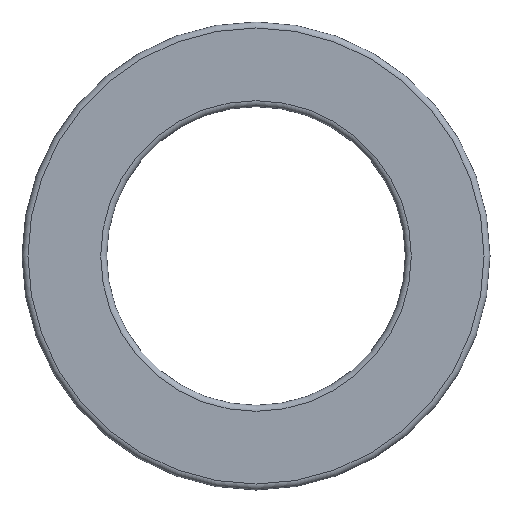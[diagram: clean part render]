
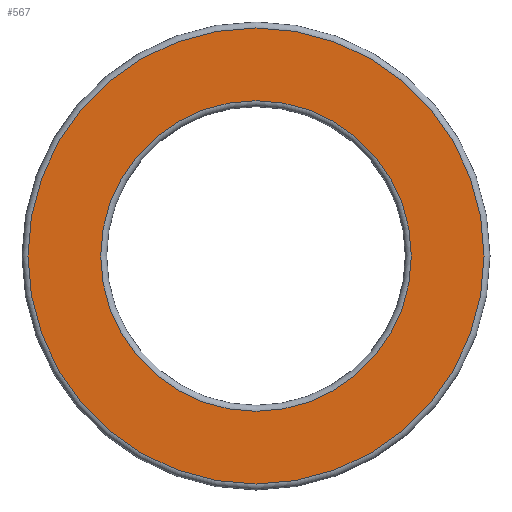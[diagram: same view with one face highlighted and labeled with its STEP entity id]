
A CAD part, front view. The second image highlights one B-rep face of the part: STEP entity #567.
In plain terms, the highlighted planar face has unit normal (0, -1, 0).
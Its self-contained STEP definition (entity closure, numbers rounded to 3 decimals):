
#100=PLANE('',#622);
#123=FACE_BOUND('',#228,.T.);
#179=FACE_OUTER_BOUND('',#227,.T.);
#227=EDGE_LOOP('',(#472));
#228=EDGE_LOOP('',(#473));
#318=CIRCLE('',#621,22.9);
#319=CIRCLE('',#623,15.6);
#367=VERTEX_POINT('',#959);
#368=VERTEX_POINT('',#962);
#417=EDGE_CURVE('',#367,#367,#318,.T.);
#418=EDGE_CURVE('',#368,#368,#319,.T.);
#472=ORIENTED_EDGE('',*,*,#417,.F.);
#473=ORIENTED_EDGE('',*,*,#418,.F.);
#567=ADVANCED_FACE('',(#179,#123),#100,.T.);
#621=AXIS2_PLACEMENT_3D('',#960,#747,#748);
#622=AXIS2_PLACEMENT_3D('',#961,#749,#750);
#623=AXIS2_PLACEMENT_3D('',#963,#751,#752);
#747=DIRECTION('center_axis',(0.,1.,0.));
#748=DIRECTION('ref_axis',(-1.,0.,0.));
#749=DIRECTION('center_axis',(0.,-1.,0.));
#750=DIRECTION('ref_axis',(0.,0.,-1.));
#751=DIRECTION('center_axis',(0.,-1.,0.));
#752=DIRECTION('ref_axis',(-1.,0.,0.));
#959=CARTESIAN_POINT('',(22.9,-5.5,0.));
#960=CARTESIAN_POINT('Origin',(0.,-5.5,0.));
#961=CARTESIAN_POINT('Origin',(15.,-5.5,0.));
#962=CARTESIAN_POINT('',(15.6,-5.5,0.));
#963=CARTESIAN_POINT('Origin',(0.,-5.5,0.));
